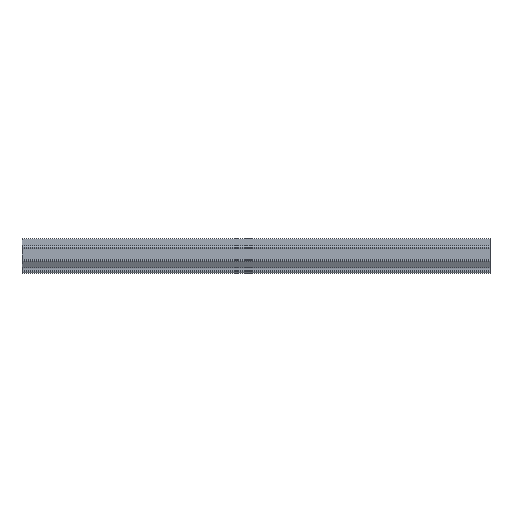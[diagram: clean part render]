
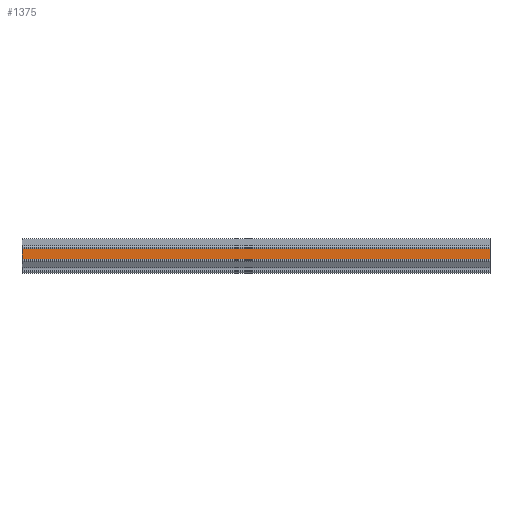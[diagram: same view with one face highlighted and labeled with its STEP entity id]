
A CAD part, top view. The second image highlights one B-rep face of the part: STEP entity #1375.
In plain terms, the highlighted planar face has unit normal (0, 0, 1).
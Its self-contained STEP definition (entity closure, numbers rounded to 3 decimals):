
#224 = CARTESIAN_POINT ( 'NONE',  ( 200., 3.124, 0.955 ) ) ;
#235 = VERTEX_POINT ( 'NONE', #1396 ) ;
#286 = VECTOR ( 'NONE', #1441, 1000. ) ;
#324 = CARTESIAN_POINT ( 'NONE',  ( 200., -1.476, 0.955 ) ) ;
#371 = EDGE_CURVE ( 'NONE', #1499, #235, #801, .T. ) ;
#448 = ORIENTED_EDGE ( 'NONE', *, *, #1397, .F. ) ;
#480 = VECTOR ( 'NONE', #834, 1000. ) ;
#487 = DIRECTION ( 'NONE',  ( -1., 0., 0. ) ) ;
#531 = LINE ( 'NONE', #910, #1039 ) ;
#593 = ORIENTED_EDGE ( 'NONE', *, *, #951, .F. ) ;
#710 = EDGE_LOOP ( 'NONE', ( #959, #593, #448, #1537 ) ) ;
#801 = LINE ( 'NONE', #1303, #286 ) ;
#825 = LINE ( 'NONE', #324, #480 ) ;
#834 = DIRECTION ( 'NONE',  ( -1., 0., 0. ) ) ;
#861 = PLANE ( 'NONE',  #1082 ) ;
#886 = CARTESIAN_POINT ( 'NONE',  ( 200., 3.124, 0.955 ) ) ;
#902 = DIRECTION ( 'NONE',  ( -1., 0., 0. ) ) ;
#910 = CARTESIAN_POINT ( 'NONE',  ( 200., 3.124, 0.955 ) ) ;
#951 = EDGE_CURVE ( 'NONE', #1277, #235, #825, .T. ) ;
#959 = ORIENTED_EDGE ( 'NONE', *, *, #371, .T. ) ;
#1006 = LINE ( 'NONE', #886, #1143 ) ;
#1039 = VECTOR ( 'NONE', #902, 1000. ) ;
#1082 = AXIS2_PLACEMENT_3D ( 'NONE', #224, #1097, #487 ) ;
#1097 = DIRECTION ( 'NONE',  ( 0., 0., -1. ) ) ;
#1134 = VERTEX_POINT ( 'NONE', #1520 ) ;
#1143 = VECTOR ( 'NONE', #1507, 1000. ) ;
#1277 = VERTEX_POINT ( 'NONE', #1461 ) ;
#1303 = CARTESIAN_POINT ( 'NONE',  ( 0., 3.124, 0.955 ) ) ;
#1362 = FACE_OUTER_BOUND ( 'NONE', #710, .T. ) ;
#1375 = ADVANCED_FACE ( 'NONE', ( #1362 ), #861, .F. ) ;
#1396 = CARTESIAN_POINT ( 'NONE',  ( 0., -1.476, 0.955 ) ) ;
#1397 = EDGE_CURVE ( 'NONE', #1134, #1277, #1006, .T. ) ;
#1441 = DIRECTION ( 'NONE',  ( 0., -1., 0. ) ) ;
#1461 = CARTESIAN_POINT ( 'NONE',  ( 200., -1.476, 0.955 ) ) ;
#1464 = EDGE_CURVE ( 'NONE', #1134, #1499, #531, .T. ) ;
#1499 = VERTEX_POINT ( 'NONE', #1549 ) ;
#1507 = DIRECTION ( 'NONE',  ( 0., -1., 0. ) ) ;
#1520 = CARTESIAN_POINT ( 'NONE',  ( 200., 3.124, 0.955 ) ) ;
#1537 = ORIENTED_EDGE ( 'NONE', *, *, #1464, .T. ) ;
#1549 = CARTESIAN_POINT ( 'NONE',  ( 0., 3.124, 0.955 ) ) ;
